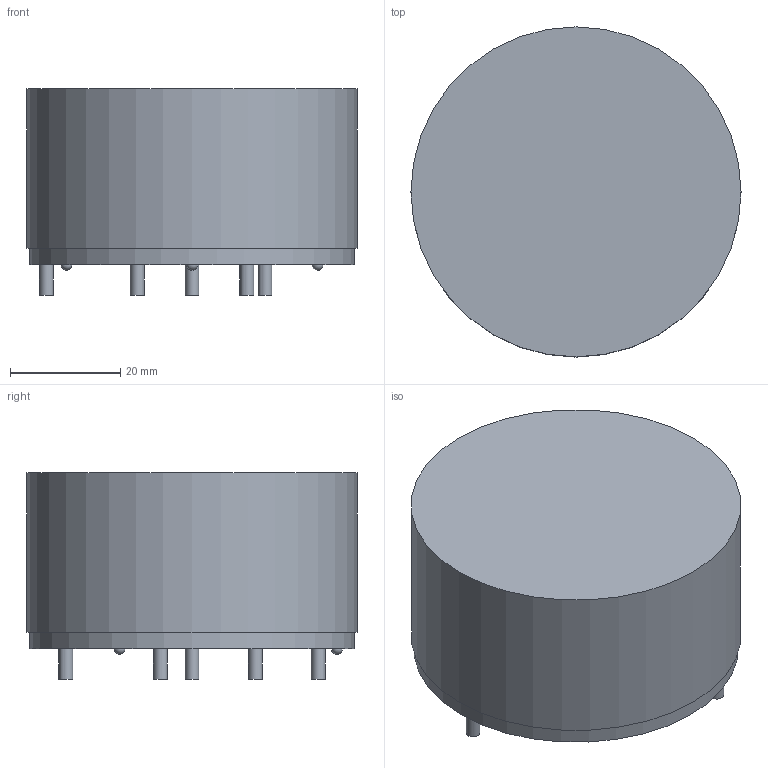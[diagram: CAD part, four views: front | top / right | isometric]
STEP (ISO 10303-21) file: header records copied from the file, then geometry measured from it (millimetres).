
FILE_DESCRIPTION(/* description */ (''),/* implementation_level */ '2;1');
FILE_NAME(/* name */ 'F:\Done\2016\多产品3D模拟\\X2\4FEE653994885F84\X0\\6123-X325\6123-X325 3D Model.stp',/* time_stamp */ '2016-07-08T16:05:30+08:00',/* author */ ('CN000562'),/* organization */ (''),/* preprocessor_version */ 'ST-DEVELOPER v16.5',/* originating_system */ 'Autodesk Inventor 2017',/* authorisation */ '');
FILE_SCHEMA (('AUTOMOTIVE_DESIGN { 1 0 10303 214 3 1 1 }'));
Length unit declared in the file: millimetre
Products named in the file (1): 6123-X316
Bounding box: 60 x 60 x 37.5 mm (x, y, z)
Volume: 90358.7 mm3; surface area: 11956.9 mm2
Topology: 1 solids, 1 shells, 23 faces, 43 edges, 29 vertices
Faces by surface type: cylinder 10, plane 10, sphere 3
Full cylindrical faces by diameter (mm): 2.5 x6, 60 x1
Entity records: 514 total; most frequent: DIRECTION 98, CARTESIAN_POINT 74, ORIENTED_EDGE 54, AXIS2_PLACEMENT_3D 47, EDGE_LOOP 40, EDGE_CURVE 27, FACE_OUTER_BOUND 23, CIRCLE 23
